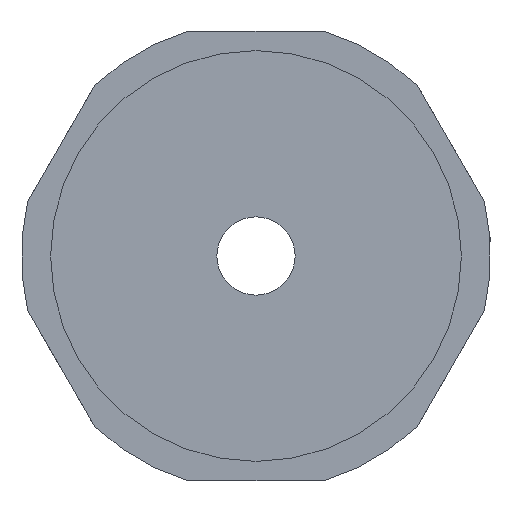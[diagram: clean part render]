
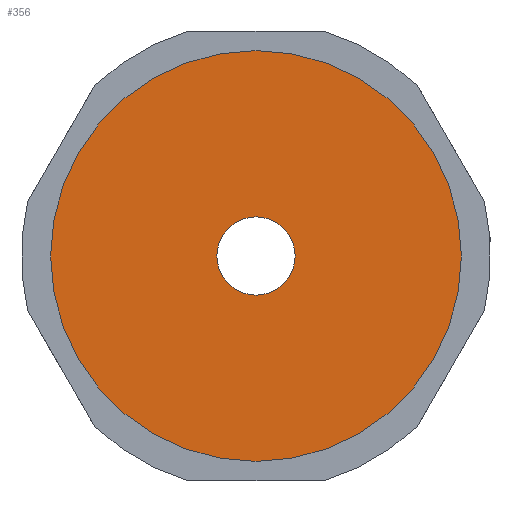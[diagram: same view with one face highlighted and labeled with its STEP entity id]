
A CAD part, front view. The second image highlights one B-rep face of the part: STEP entity #356.
In plain terms, the highlighted planar face has unit normal (0, -1, 0).
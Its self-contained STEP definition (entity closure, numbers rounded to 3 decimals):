
#9 = VERTEX_POINT ( 'NONE', #805 ) ;
#12 = DIRECTION ( 'NONE',  ( 0., 1., 0. ) ) ;
#42 = AXIS2_PLACEMENT_3D ( 'NONE', #215, #111, #901 ) ;
#59 = FACE_OUTER_BOUND ( 'NONE', #249, .T. ) ;
#83 = DIRECTION ( 'NONE',  ( 0., 0., 1. ) ) ;
#111 = DIRECTION ( 'NONE',  ( 0., 1., 0. ) ) ;
#114 = AXIS2_PLACEMENT_3D ( 'NONE', #1264, #1184, #405 ) ;
#139 = CARTESIAN_POINT ( 'NONE',  ( 0., 0., -2. ) ) ;
#170 = VERTEX_POINT ( 'NONE', #932 ) ;
#183 = PLANE ( 'NONE',  #231 ) ;
#215 = CARTESIAN_POINT ( 'NONE',  ( 0., 0., 0. ) ) ;
#221 = VERTEX_POINT ( 'NONE', #1164 ) ;
#231 = AXIS2_PLACEMENT_3D ( 'NONE', #659, #463, #83 ) ;
#249 = EDGE_LOOP ( 'NONE', ( #892, #664 ) ) ;
#298 = FACE_BOUND ( 'NONE', #1161, .T. ) ;
#337 = CIRCLE ( 'NONE', #507, 10.5 ) ;
#356 = ADVANCED_FACE ( 'NONE', ( #298, #59 ), #183, .F. ) ;
#405 = DIRECTION ( 'NONE',  ( 0., 0., 1. ) ) ;
#411 = DIRECTION ( 'NONE',  ( 0., 0., 1. ) ) ;
#418 = CIRCLE ( 'NONE', #682, 2. ) ;
#420 = EDGE_CURVE ( 'NONE', #1191, #170, #1182, .T. ) ;
#463 = DIRECTION ( 'NONE',  ( 0., 1., 0. ) ) ;
#507 = AXIS2_PLACEMENT_3D ( 'NONE', #991, #12, #411 ) ;
#611 = EDGE_CURVE ( 'NONE', #9, #221, #337, .T. ) ;
#659 = CARTESIAN_POINT ( 'NONE',  ( 0., 0., 0. ) ) ;
#664 = ORIENTED_EDGE ( 'NONE', *, *, #611, .F. ) ;
#682 = AXIS2_PLACEMENT_3D ( 'NONE', #1096, #811, #715 ) ;
#715 = DIRECTION ( 'NONE',  ( 0., 0., 1. ) ) ;
#805 = CARTESIAN_POINT ( 'NONE',  ( 0., 0., 10.5 ) ) ;
#811 = DIRECTION ( 'NONE',  ( 0., 1., 0. ) ) ;
#859 = CIRCLE ( 'NONE', #42, 10.5 ) ;
#892 = ORIENTED_EDGE ( 'NONE', *, *, #1073, .F. ) ;
#901 = DIRECTION ( 'NONE',  ( 0., 0., 1. ) ) ;
#932 = CARTESIAN_POINT ( 'NONE',  ( 0., 0., 2. ) ) ;
#960 = EDGE_CURVE ( 'NONE', #170, #1191, #418, .T. ) ;
#991 = CARTESIAN_POINT ( 'NONE',  ( 0., 0., 0. ) ) ;
#1067 = ORIENTED_EDGE ( 'NONE', *, *, #960, .T. ) ;
#1073 = EDGE_CURVE ( 'NONE', #221, #9, #859, .T. ) ;
#1096 = CARTESIAN_POINT ( 'NONE',  ( 0., 0., 0. ) ) ;
#1103 = ORIENTED_EDGE ( 'NONE', *, *, #420, .T. ) ;
#1161 = EDGE_LOOP ( 'NONE', ( #1067, #1103 ) ) ;
#1164 = CARTESIAN_POINT ( 'NONE',  ( 0., 0., -10.5 ) ) ;
#1182 = CIRCLE ( 'NONE', #114, 2. ) ;
#1184 = DIRECTION ( 'NONE',  ( 0., 1., 0. ) ) ;
#1191 = VERTEX_POINT ( 'NONE', #139 ) ;
#1264 = CARTESIAN_POINT ( 'NONE',  ( 0., 0., 0. ) ) ;
